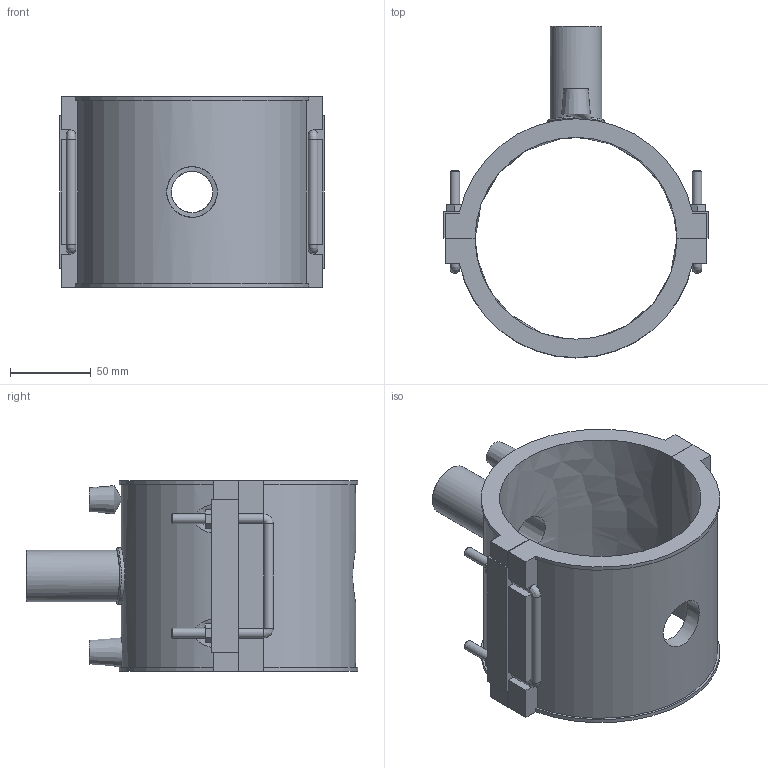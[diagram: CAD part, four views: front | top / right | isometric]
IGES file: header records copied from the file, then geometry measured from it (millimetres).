
Global section: file name: 495804125032.ipt; native system: Autodesk Inventor 2015; preprocessor: unknown; author: KIM; date: 20180426.120839; units: millimetre
Bounding box: 164 x 205.45 x 118 mm (x, y, z)
Volume: 591762 mm3; surface area: 144861.5 mm2
Topology: 2 solids, 2 shells, 133 faces, 340 edges, 214 vertices
Faces by surface type: plane 85, cylinder 22, revolution 10, bspline 9, cone 7
Full cylindrical faces by diameter (mm): 4 x2, 6 x10, 32 x1, 35.2 x1
